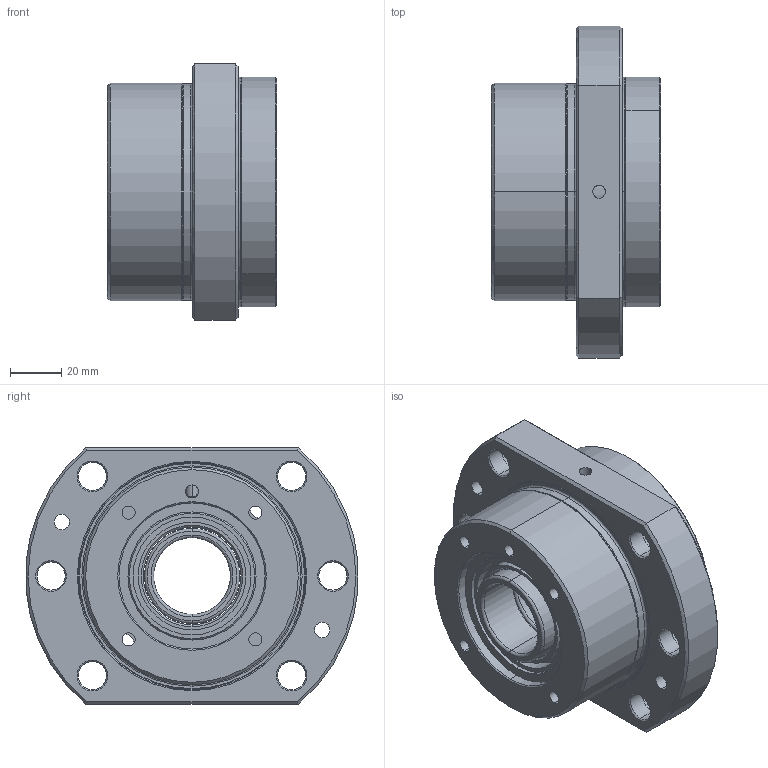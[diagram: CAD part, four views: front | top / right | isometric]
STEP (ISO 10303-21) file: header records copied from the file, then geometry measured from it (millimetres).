
FILE_DESCRIPTION (( 'STEP AP203' ), '1' );
FILE_NAME ('WBK30DF組合零件檔.STEP', '2012-12-12T03:08:56', ( '' ), ( '' ), 'SwSTEP 2.0', 'SolidWorks 2012', '' );
FILE_SCHEMA (( 'CONFIG_CONTROL_DESIGN' ));
Length unit declared in the file: millimetre
Products named in the file (1): WBK30DF組合零件檔
Bounding box: 66 x 129.59 x 100 mm (x, y, z)
Surface area: 71691.4 mm2 (no closed solid volume)
Topology: 0 solids, 10 shells, 220 faces, 550 edges, 352 vertices
Faces by surface type: cylinder 104, cone 66, plane 34, torus 16
Entity records: 6856 total; most frequent: DIRECTION 1324, CARTESIAN_POINT 1237, ORIENTED_EDGE 1000, AXIS2_PLACEMENT_3D 571, EDGE_CURVE 550, VERTEX_POINT 352, CIRCLE 350, EDGE_LOOP 280
